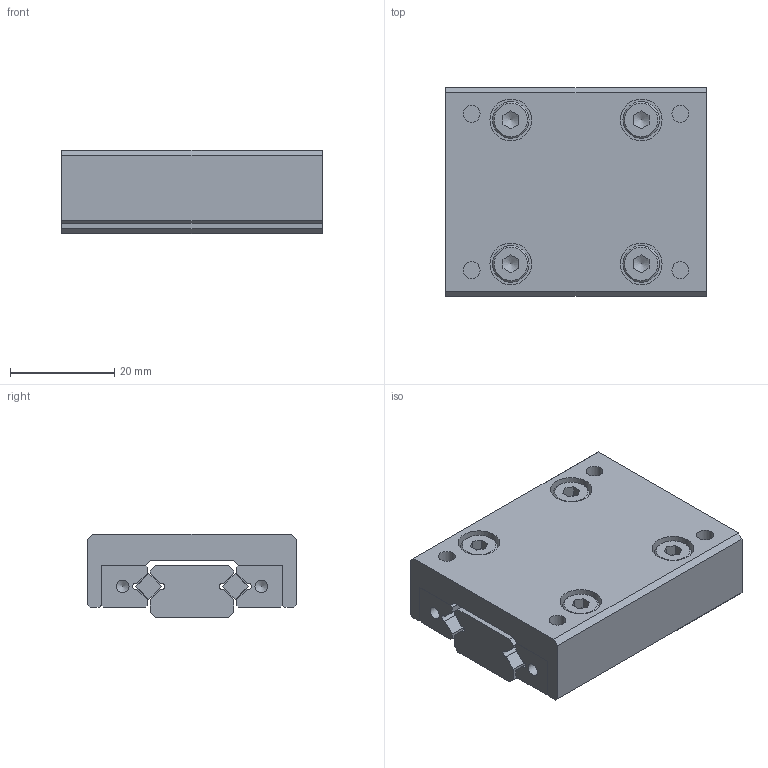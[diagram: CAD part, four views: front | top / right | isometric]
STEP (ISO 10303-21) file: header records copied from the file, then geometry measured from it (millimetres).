
FILE_DESCRIPTION((''),'2;1');
FILE_NAME('D:\製品 (図面)\カタログ用3D\リニアガイド関連\STEP形式\CRT3\CRT3050.stp','2010-07-29T15:47:53',('Tsuchiya'),(''),'Autodesk Inventor 10','Autodesk Inventor 10','');
FILE_SCHEMA(('AUTOMOTIVE_DESIGN { 1 0 10303 214 1 1 1 1 }'));
Length unit declared in the file: millimetre
Products named in the file (5): CRT3050; CRT30501; CRT30502; CRT30503; CRT30504
Assembly tree (4 placements, depth 2):
  CRT3050
    CRT30501
    CRT30502
    CRT30503
    CRT30504
Bounding box: 50 x 40 x 16 mm (x, y, z)
Volume: 25960.4 mm3; surface area: 14113.4 mm2
Topology: 4 solids, 8 shells, 235 faces, 562 edges, 370 vertices
Faces by surface type: plane 166, bspline 37, cylinder 18, cone 14
Full cylindrical faces by diameter (mm): 2.459 x2, 4 x8, 7 x4
Entity records: 6740 total; most frequent: CARTESIAN_POINT 1601, ORIENTED_EDGE 972, DIRECTION 968, EDGE_CURVE 486, VECTOR 370, LINE 370, VERTEX_POINT 348, EDGE_LOOP 334
